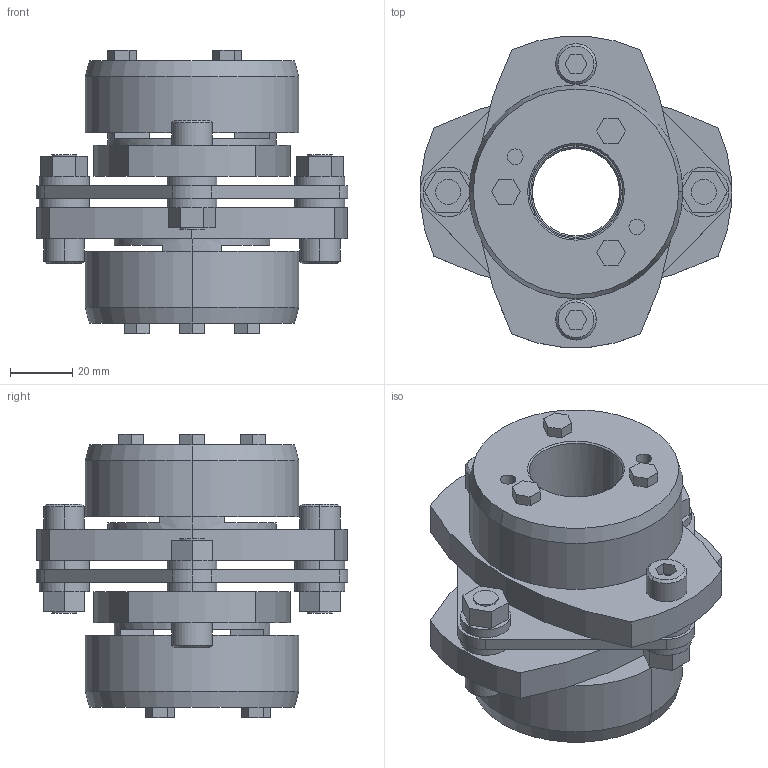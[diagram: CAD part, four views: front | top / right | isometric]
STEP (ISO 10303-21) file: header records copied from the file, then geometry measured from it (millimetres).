
FILE_DESCRIPTION((''),'2;1');
FILE_NAME('LCS-100T7-28×30.stp','2015-11-02T07:54:31',(''),(''),'AutoCAD STEP 2000i','AutoCAD 2000i',', , ');
FILE_SCHEMA(('CONFIG_CONTROL_DESIGN'));
Length unit declared in the file: millimetre
Products named in the file (9): LCS-100T7-28×30; 忣兜1; LC100T7-T028-1; LC100T7-T030; LC100T7-T025-1; LC100T7-T025; LC100T7-T022-1; LC100T7-T022; LCS100-ITA
Assembly tree (8 placements, depth 2):
  LCS-100T7-28×30
    忣兜1
    LC100T7-T028-1
    LC100T7-T030
    LC100T7-T025-1
    LC100T7-T025
    LC100T7-T022-1
    LC100T7-T022
    LCS100-ITA
Bounding box: 100 x 99.93 x 91 mm (x, y, z)
Volume: 269230.9 mm3; surface area: 65201.8 mm2
Topology: 1 solids, 1 shells, 232 faces, 568 edges, 372 vertices
Faces by surface type: plane 132, cylinder 80, cone 20
Entity records: 7091 total; most frequent: DIRECTION 1246, CARTESIAN_POINT 1181, ORIENTED_EDGE 1136, EDGE_CURVE 568, AXIS2_PLACEMENT_3D 437, VERTEX_POINT 372, VECTOR 372, LINE 372
